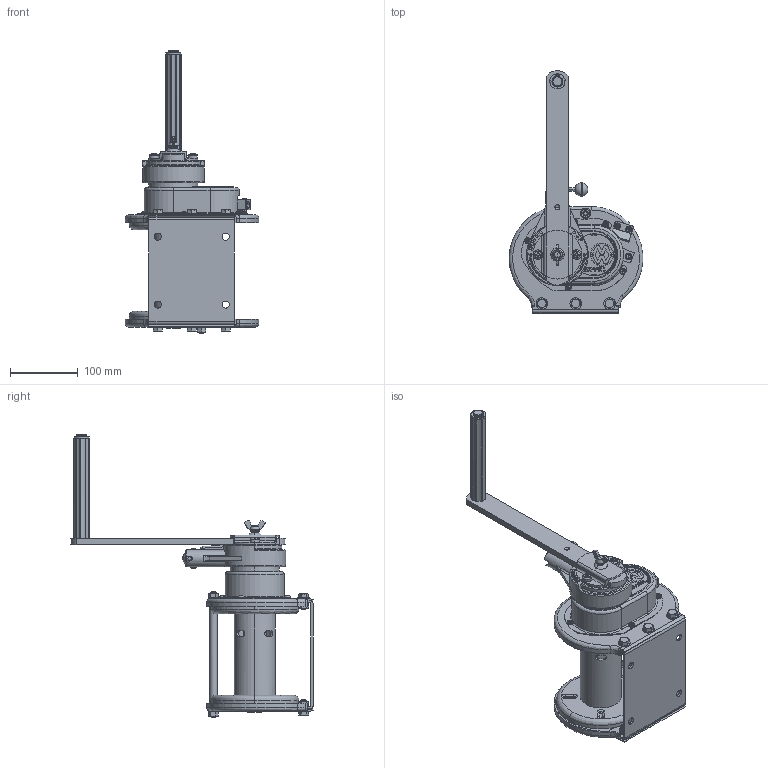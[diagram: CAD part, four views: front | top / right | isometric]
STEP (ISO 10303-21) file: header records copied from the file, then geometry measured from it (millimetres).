
FILE_DESCRIPTION( (''), '2;1');
FILE_NAME ('ERSB-1.stp','2024-01-10T09:43:42',(''),(''),'spGate 19.8.2 (****-****-****-****)','','');
FILE_SCHEMA (('AUTOMOTIVE_DESIGN'));
Length unit declared in the file: millimetre
Products named in the file (3): Assembly; ERSB-1-prt0; ERSB-1-prt1
Assembly tree (2 placements, depth 2):
  Assembly
    ERSB-1-prt0
    ERSB-1-prt1
Bounding box: 196.82 x 356.93 x 416.7 mm (x, y, z)
Volume: 1228607.1 mm3; surface area: 463714.6 mm2
Topology: 2 solids, 2 shells, 2604 faces, 6759 edges, 4286 vertices
Faces by surface type: plane 1290, cylinder 847, bspline 360, sphere 107
Entity records: 139846 total; most frequent: CARTESIAN_POINT 24320, ORIENTED_EDGE 13380, DIRECTION 12699, COLOUR_RGB 9296, PRESENTATION_STYLE_ASSIGNMENT 9296, STYLED_ITEM 9296, EDGE_CURVE 6690, DRAUGHTING_PRE_DEFINED_CURVE_FONT 6690
